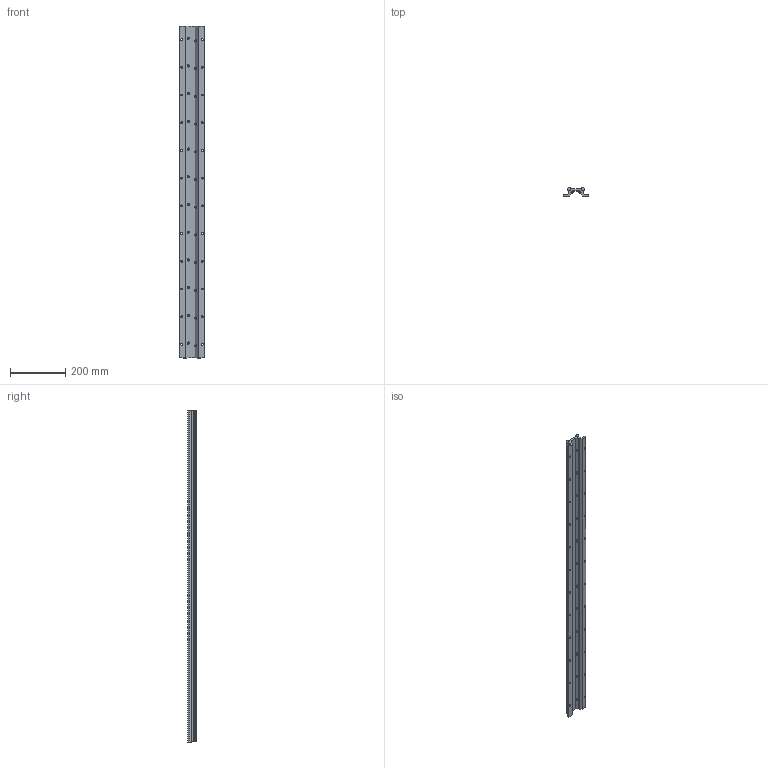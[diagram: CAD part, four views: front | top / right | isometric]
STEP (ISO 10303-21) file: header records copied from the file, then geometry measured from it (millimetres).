
FILE_DESCRIPTION (( 'STEP AP203' ), '1' );
FILE_NAME ('LF 3_-_LF 2 1198 mm lang.step', '2005-06-03T06:31:37', ( ' ' ), ( ' ' ), 'SwSTEP 2.0', 'SolidWorks 2004231', '' );
FILE_SCHEMA (( 'CONFIG_CONTROL_DESIGN' ));
Length unit declared in the file: millimetre
Products named in the file (1): LF 3_-_LF 2  1198 mm lang
Bounding box: 90 x 31 x 1198 mm (x, y, z)
Volume: 1253818.2 mm3; surface area: 387099.2 mm2
Topology: 1 solids, 1 shells, 570 faces, 1444 edges, 872 vertices
Faces by surface type: cylinder 256, plane 218, torus 48, cone 48
Entity records: 17329 total; most frequent: CARTESIAN_POINT 4399, ORIENTED_EDGE 2792, DIRECTION 2482, EDGE_CURVE 1396, AXIS2_PLACEMENT_3D 875, VERTEX_POINT 872, LINE 732, VECTOR 732
